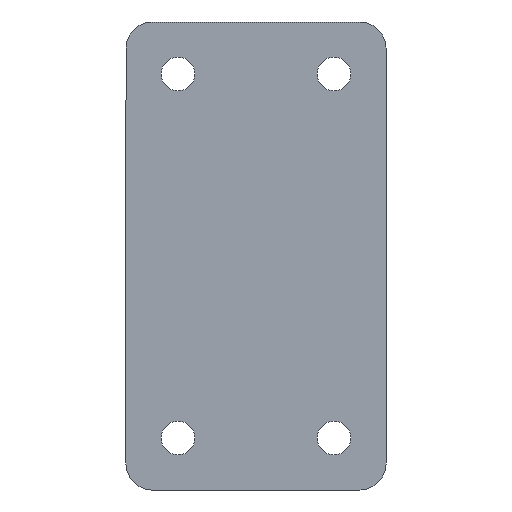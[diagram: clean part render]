
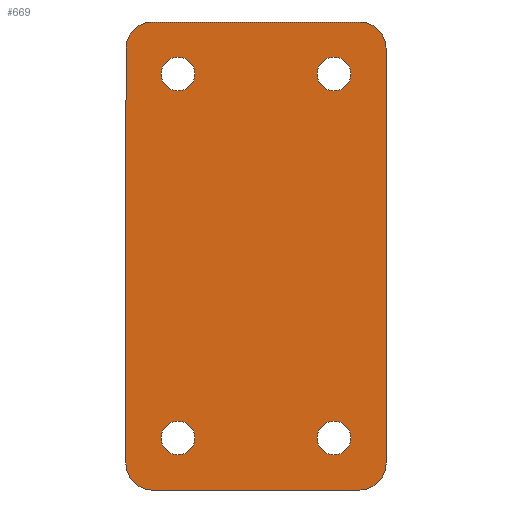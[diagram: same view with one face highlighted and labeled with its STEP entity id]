
A CAD part, front view. The second image highlights one B-rep face of the part: STEP entity #669.
In plain terms, the highlighted planar face has unit normal (0, -1, 0).
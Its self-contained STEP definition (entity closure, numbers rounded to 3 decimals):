
#297 = PLANE ( 'NONE',  #2902 ) ;
#336 = CARTESIAN_POINT ( 'NONE',  ( -40., -5., 80. ) ) ;
#375 = DIRECTION ( 'NONE',  ( 0., 0., 1. ) ) ;
#404 = LINE ( 'NONE', #1868, #2531 ) ;
#405 = AXIS2_PLACEMENT_3D ( 'NONE', #4361, #5823, #5882 ) ;
#423 = VERTEX_POINT ( 'NONE', #3422 ) ;
#439 = DIRECTION ( 'NONE',  ( 0., 0., 1. ) ) ;
#442 = CARTESIAN_POINT ( 'NONE',  ( 30., -5., -70. ) ) ;
#462 = EDGE_CURVE ( 'NONE', #1410, #4918, #2844, .T. ) ;
#518 = AXIS2_PLACEMENT_3D ( 'NONE', #4422, #3351, #439 ) ;
#546 = CIRCLE ( 'NONE', #1050, 6.5 ) ;
#555 = VERTEX_POINT ( 'NONE', #798 ) ;
#669 = ADVANCED_FACE ( 'NONE', ( #5200, #4245, #4454, #3168, #5237 ), #297, .F. ) ;
#696 = CARTESIAN_POINT ( 'NONE',  ( 50., -5., 80. ) ) ;
#774 = ORIENTED_EDGE ( 'NONE', *, *, #1848, .T. ) ;
#798 = CARTESIAN_POINT ( 'NONE',  ( -30., -5., -76.5 ) ) ;
#800 = EDGE_CURVE ( 'NONE', #1410, #6337, #5539, .T. ) ;
#852 = EDGE_CURVE ( 'NONE', #4770, #555, #4087, .T. ) ;
#855 = VECTOR ( 'NONE', #953, 1000. ) ;
#861 = CIRCLE ( 'NONE', #6323, 10. ) ;
#927 = EDGE_LOOP ( 'NONE', ( #4397, #6277 ) ) ;
#934 = EDGE_CURVE ( 'NONE', #5983, #2473, #546, .T. ) ;
#953 = DIRECTION ( 'NONE',  ( -1., 0., 0. ) ) ;
#981 = CARTESIAN_POINT ( 'NONE',  ( 40., -5., -90. ) ) ;
#1003 = VECTOR ( 'NONE', #3806, 1000. ) ;
#1043 = DIRECTION ( 'NONE',  ( 0., 0., 1. ) ) ;
#1050 = AXIS2_PLACEMENT_3D ( 'NONE', #5260, #1830, #375 ) ;
#1104 = CIRCLE ( 'NONE', #4586, 6.5 ) ;
#1238 = ORIENTED_EDGE ( 'NONE', *, *, #3766, .F. ) ;
#1290 = DIRECTION ( 'NONE',  ( 0., 0., 1. ) ) ;
#1389 = CARTESIAN_POINT ( 'NONE',  ( -50., -5., 90. ) ) ;
#1403 = CARTESIAN_POINT ( 'NONE',  ( 30., -5., 70. ) ) ;
#1410 = VERTEX_POINT ( 'NONE', #981 ) ;
#1452 = CARTESIAN_POINT ( 'NONE',  ( -50., -5., -90. ) ) ;
#1460 = DIRECTION ( 'NONE',  ( 0., 0., 1. ) ) ;
#1727 = DIRECTION ( 'NONE',  ( 0., 0., 1. ) ) ;
#1734 = VERTEX_POINT ( 'NONE', #5690 ) ;
#1830 = DIRECTION ( 'NONE',  ( 0., 1., 0. ) ) ;
#1837 = AXIS2_PLACEMENT_3D ( 'NONE', #336, #4235, #1290 ) ;
#1848 = EDGE_CURVE ( 'NONE', #4863, #4918, #5699, .T. ) ;
#1853 = CIRCLE ( 'NONE', #518, 6.5 ) ;
#1868 = CARTESIAN_POINT ( 'NONE',  ( -50., -5., -90. ) ) ;
#1906 = CARTESIAN_POINT ( 'NONE',  ( 40., -5., 80. ) ) ;
#1917 = ORIENTED_EDGE ( 'NONE', *, *, #5797, .T. ) ;
#1944 = EDGE_LOOP ( 'NONE', ( #2853, #774, #5306, #5709, #4196, #4809, #1238, #3333 ) ) ;
#1994 = CIRCLE ( 'NONE', #3243, 6.5 ) ;
#2074 = CARTESIAN_POINT ( 'NONE',  ( 30., -5., -70. ) ) ;
#2098 = VERTEX_POINT ( 'NONE', #3662 ) ;
#2160 = AXIS2_PLACEMENT_3D ( 'NONE', #2233, #4731, #1727 ) ;
#2233 = CARTESIAN_POINT ( 'NONE',  ( -30., -5., -70. ) ) ;
#2331 = DIRECTION ( 'NONE',  ( 0., -1., 0. ) ) ;
#2400 = DIRECTION ( 'NONE',  ( 0., 1., 0. ) ) ;
#2473 = VERTEX_POINT ( 'NONE', #4302 ) ;
#2531 = VECTOR ( 'NONE', #5317, 1000. ) ;
#2562 = ORIENTED_EDGE ( 'NONE', *, *, #2775, .T. ) ;
#2705 = CARTESIAN_POINT ( 'NONE',  ( -50., -5., -80. ) ) ;
#2762 = DIRECTION ( 'NONE',  ( 0., -1., 0. ) ) ;
#2768 = CARTESIAN_POINT ( 'NONE',  ( -30., -5., -70. ) ) ;
#2775 = EDGE_CURVE ( 'NONE', #1734, #4728, #1853, .T. ) ;
#2834 = EDGE_CURVE ( 'NONE', #4728, #1734, #1994, .T. ) ;
#2844 = LINE ( 'NONE', #1452, #855 ) ;
#2853 = ORIENTED_EDGE ( 'NONE', *, *, #5986, .F. ) ;
#2866 = ORIENTED_EDGE ( 'NONE', *, *, #2911, .T. ) ;
#2902 = AXIS2_PLACEMENT_3D ( 'NONE', #3722, #5379, #4506 ) ;
#2911 = EDGE_CURVE ( 'NONE', #2473, #5983, #4161, .T. ) ;
#2941 = ORIENTED_EDGE ( 'NONE', *, *, #6252, .T. ) ;
#2943 = DIRECTION ( 'NONE',  ( 0., 1., 0. ) ) ;
#2976 = DIRECTION ( 'NONE',  ( 0., 1., 0. ) ) ;
#3002 = CIRCLE ( 'NONE', #4718, 6.5 ) ;
#3025 = EDGE_CURVE ( 'NONE', #4696, #6337, #4384, .T. ) ;
#3168 = FACE_BOUND ( 'NONE', #927, .T. ) ;
#3243 = AXIS2_PLACEMENT_3D ( 'NONE', #1403, #2943, #1460 ) ;
#3320 = VECTOR ( 'NONE', #6329, 1000. ) ;
#3333 = ORIENTED_EDGE ( 'NONE', *, *, #4811, .T. ) ;
#3341 = DIRECTION ( 'NONE',  ( 0., 0., 1. ) ) ;
#3351 = DIRECTION ( 'NONE',  ( 0., 1., 0. ) ) ;
#3422 = CARTESIAN_POINT ( 'NONE',  ( 30., -5., -63.5 ) ) ;
#3457 = DIRECTION ( 'NONE',  ( 0., 0., 1. ) ) ;
#3526 = EDGE_LOOP ( 'NONE', ( #2941, #1917 ) ) ;
#3662 = CARTESIAN_POINT ( 'NONE',  ( -40., -5., 90. ) ) ;
#3702 = CIRCLE ( 'NONE', #2160, 6.5 ) ;
#3722 = CARTESIAN_POINT ( 'NONE',  ( 0., -5., 0. ) ) ;
#3765 = EDGE_CURVE ( 'NONE', #4696, #5171, #861, .T. ) ;
#3766 = EDGE_CURVE ( 'NONE', #2098, #5171, #4546, .T. ) ;
#3806 = DIRECTION ( 'NONE',  ( 0., 0., -1. ) ) ;
#3833 = CARTESIAN_POINT ( 'NONE',  ( -30., -5., 63.5 ) ) ;
#4017 = AXIS2_PLACEMENT_3D ( 'NONE', #2768, #4787, #4233 ) ;
#4087 = CIRCLE ( 'NONE', #4017, 6.5 ) ;
#4090 = ORIENTED_EDGE ( 'NONE', *, *, #2834, .T. ) ;
#4161 = CIRCLE ( 'NONE', #405, 6.5 ) ;
#4187 = DIRECTION ( 'NONE',  ( 0., 0., 1. ) ) ;
#4196 = ORIENTED_EDGE ( 'NONE', *, *, #3025, .F. ) ;
#4202 = EDGE_LOOP ( 'NONE', ( #2562, #4090 ) ) ;
#4233 = DIRECTION ( 'NONE',  ( 0., 0., 1. ) ) ;
#4235 = DIRECTION ( 'NONE',  ( 0., -1., 0. ) ) ;
#4245 = FACE_BOUND ( 'NONE', #4202, .T. ) ;
#4302 = CARTESIAN_POINT ( 'NONE',  ( -30., -5., 76.5 ) ) ;
#4332 = ORIENTED_EDGE ( 'NONE', *, *, #934, .T. ) ;
#4361 = CARTESIAN_POINT ( 'NONE',  ( -30., -5., 70. ) ) ;
#4384 = LINE ( 'NONE', #5820, #1003 ) ;
#4397 = ORIENTED_EDGE ( 'NONE', *, *, #852, .T. ) ;
#4422 = CARTESIAN_POINT ( 'NONE',  ( 30., -5., 70. ) ) ;
#4454 = FACE_BOUND ( 'NONE', #3526, .T. ) ;
#4506 = DIRECTION ( 'NONE',  ( 0., 0., 1. ) ) ;
#4546 = LINE ( 'NONE', #1389, #3320 ) ;
#4555 = AXIS2_PLACEMENT_3D ( 'NONE', #5198, #2331, #5758 ) ;
#4586 = AXIS2_PLACEMENT_3D ( 'NONE', #442, #2400, #3457 ) ;
#4696 = VERTEX_POINT ( 'NONE', #696 ) ;
#4718 = AXIS2_PLACEMENT_3D ( 'NONE', #2074, #2976, #1043 ) ;
#4728 = VERTEX_POINT ( 'NONE', #5134 ) ;
#4731 = DIRECTION ( 'NONE',  ( 0., 1., 0. ) ) ;
#4770 = VERTEX_POINT ( 'NONE', #5534 ) ;
#4787 = DIRECTION ( 'NONE',  ( 0., 1., 0. ) ) ;
#4809 = ORIENTED_EDGE ( 'NONE', *, *, #3765, .T. ) ;
#4811 = EDGE_CURVE ( 'NONE', #2098, #4975, #5460, .T. ) ;
#4863 = VERTEX_POINT ( 'NONE', #2705 ) ;
#4870 = EDGE_LOOP ( 'NONE', ( #2866, #4332 ) ) ;
#4873 = EDGE_CURVE ( 'NONE', #555, #4770, #3702, .T. ) ;
#4918 = VERTEX_POINT ( 'NONE', #5199 ) ;
#4974 = VERTEX_POINT ( 'NONE', #5239 ) ;
#4975 = VERTEX_POINT ( 'NONE', #6150 ) ;
#5134 = CARTESIAN_POINT ( 'NONE',  ( 30., -5., 63.5 ) ) ;
#5150 = CARTESIAN_POINT ( 'NONE',  ( 40., -5., 90. ) ) ;
#5171 = VERTEX_POINT ( 'NONE', #5150 ) ;
#5198 = CARTESIAN_POINT ( 'NONE',  ( 40., -5., -80. ) ) ;
#5199 = CARTESIAN_POINT ( 'NONE',  ( -40., -5., -90. ) ) ;
#5200 = FACE_BOUND ( 'NONE', #4870, .T. ) ;
#5237 = FACE_OUTER_BOUND ( 'NONE', #1944, .T. ) ;
#5239 = CARTESIAN_POINT ( 'NONE',  ( 30., -5., -76.5 ) ) ;
#5260 = CARTESIAN_POINT ( 'NONE',  ( -30., -5., 70. ) ) ;
#5306 = ORIENTED_EDGE ( 'NONE', *, *, #462, .F. ) ;
#5317 = DIRECTION ( 'NONE',  ( 0., 0., 1. ) ) ;
#5379 = DIRECTION ( 'NONE',  ( 0., 1., 0. ) ) ;
#5460 = CIRCLE ( 'NONE', #1837, 10. ) ;
#5534 = CARTESIAN_POINT ( 'NONE',  ( -30., -5., -63.5 ) ) ;
#5539 = CIRCLE ( 'NONE', #4555, 10. ) ;
#5690 = CARTESIAN_POINT ( 'NONE',  ( 30., -5., 76.5 ) ) ;
#5699 = CIRCLE ( 'NONE', #6247, 10. ) ;
#5709 = ORIENTED_EDGE ( 'NONE', *, *, #800, .T. ) ;
#5758 = DIRECTION ( 'NONE',  ( 0., 0., 1. ) ) ;
#5797 = EDGE_CURVE ( 'NONE', #4974, #423, #3002, .T. ) ;
#5820 = CARTESIAN_POINT ( 'NONE',  ( 50., -5., -90. ) ) ;
#5823 = DIRECTION ( 'NONE',  ( 0., 1., 0. ) ) ;
#5844 = CARTESIAN_POINT ( 'NONE',  ( 50., -5., -80. ) ) ;
#5850 = DIRECTION ( 'NONE',  ( 0., -1., 0. ) ) ;
#5882 = DIRECTION ( 'NONE',  ( 0., 0., 1. ) ) ;
#5983 = VERTEX_POINT ( 'NONE', #3833 ) ;
#5986 = EDGE_CURVE ( 'NONE', #4863, #4975, #404, .T. ) ;
#6150 = CARTESIAN_POINT ( 'NONE',  ( -50., -5., 80. ) ) ;
#6227 = CARTESIAN_POINT ( 'NONE',  ( -40., -5., -80. ) ) ;
#6247 = AXIS2_PLACEMENT_3D ( 'NONE', #6227, #2762, #4187 ) ;
#6252 = EDGE_CURVE ( 'NONE', #423, #4974, #1104, .T. ) ;
#6277 = ORIENTED_EDGE ( 'NONE', *, *, #4873, .T. ) ;
#6323 = AXIS2_PLACEMENT_3D ( 'NONE', #1906, #5850, #3341 ) ;
#6329 = DIRECTION ( 'NONE',  ( 1., 0., 0. ) ) ;
#6337 = VERTEX_POINT ( 'NONE', #5844 ) ;
